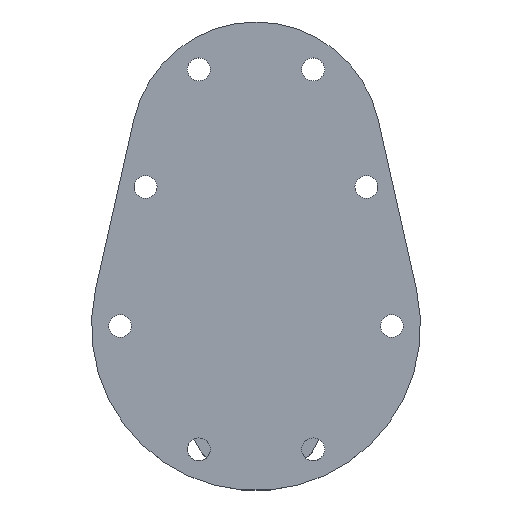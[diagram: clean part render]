
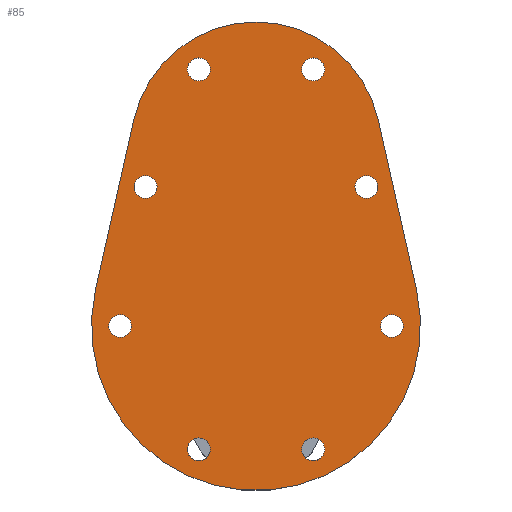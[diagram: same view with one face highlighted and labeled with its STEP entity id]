
A CAD part, top view. The second image highlights one B-rep face of the part: STEP entity #85.
In plain terms, the highlighted planar face has unit normal (0, 0, 1).
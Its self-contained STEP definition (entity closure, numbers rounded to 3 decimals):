
#85 = ADVANCED_FACE( '', ( #197, #198, #199, #200, #201, #202, #203, #204, #205 ), #206, .T. );
#197 = FACE_BOUND( '', #349, .T. );
#198 = FACE_BOUND( '', #350, .T. );
#199 = FACE_BOUND( '', #351, .T. );
#200 = FACE_BOUND( '', #352, .T. );
#201 = FACE_BOUND( '', #353, .T. );
#202 = FACE_BOUND( '', #354, .T. );
#203 = FACE_BOUND( '', #355, .T. );
#204 = FACE_BOUND( '', #356, .T. );
#205 = FACE_OUTER_BOUND( '', #357, .T. );
#206 = PLANE( '', #358 );
#349 = EDGE_LOOP( '', ( #534 ) );
#350 = EDGE_LOOP( '', ( #535 ) );
#351 = EDGE_LOOP( '', ( #536 ) );
#352 = EDGE_LOOP( '', ( #537 ) );
#353 = EDGE_LOOP( '', ( #538 ) );
#354 = EDGE_LOOP( '', ( #539 ) );
#355 = EDGE_LOOP( '', ( #540 ) );
#356 = EDGE_LOOP( '', ( #541 ) );
#357 = EDGE_LOOP( '', ( #542, #543, #544, #545 ) );
#358 = AXIS2_PLACEMENT_3D( '', #546, #547, #548 );
#534 = ORIENTED_EDGE( '', *, *, #818, .F. );
#535 = ORIENTED_EDGE( '', *, *, #835, .F. );
#536 = ORIENTED_EDGE( '', *, *, #836, .F. );
#537 = ORIENTED_EDGE( '', *, *, #800, .F. );
#538 = ORIENTED_EDGE( '', *, *, #794, .F. );
#539 = ORIENTED_EDGE( '', *, *, #837, .F. );
#540 = ORIENTED_EDGE( '', *, *, #838, .F. );
#541 = ORIENTED_EDGE( '', *, *, #797, .F. );
#542 = ORIENTED_EDGE( '', *, *, #839, .T. );
#543 = ORIENTED_EDGE( '', *, *, #840, .T. );
#544 = ORIENTED_EDGE( '', *, *, #841, .T. );
#545 = ORIENTED_EDGE( '', *, *, #802, .T. );
#546 = CARTESIAN_POINT( '', ( 0., 0., 0. ) );
#547 = DIRECTION( '', ( 0., 0., 1. ) );
#548 = DIRECTION( '', ( 1., 0., 0. ) );
#794 = EDGE_CURVE( '', #925, #925, #926, .T. );
#797 = EDGE_CURVE( '', #930, #930, #931, .T. );
#800 = EDGE_CURVE( '', #935, #935, #936, .T. );
#802 = EDGE_CURVE( '', #938, #939, #940, .T. );
#818 = EDGE_CURVE( '', #966, #966, #967, .T. );
#835 = EDGE_CURVE( '', #994, #994, #995, .T. );
#836 = EDGE_CURVE( '', #996, #996, #997, .T. );
#837 = EDGE_CURVE( '', #998, #998, #999, .T. );
#838 = EDGE_CURVE( '', #1000, #1000, #1001, .T. );
#839 = EDGE_CURVE( '', #939, #1002, #1003, .T. );
#840 = EDGE_CURVE( '', #1002, #1004, #1005, .T. );
#841 = EDGE_CURVE( '', #1004, #938, #1006, .T. );
#925 = VERTEX_POINT( '', #1119 );
#926 = CIRCLE( '', #1120, 3.2 );
#930 = VERTEX_POINT( '', #1124 );
#931 = CIRCLE( '', #1125, 3.2 );
#935 = VERTEX_POINT( '', #1129 );
#936 = CIRCLE( '', #1130, 3.2 );
#938 = VERTEX_POINT( '', #1132 );
#939 = VERTEX_POINT( '', #1133 );
#940 = CIRCLE( '', #1134, 35. );
#966 = VERTEX_POINT( '', #1165 );
#967 = CIRCLE( '', #1166, 3.2 );
#994 = VERTEX_POINT( '', #1203 );
#995 = CIRCLE( '', #1204, 3.2 );
#996 = VERTEX_POINT( '', #1205 );
#997 = CIRCLE( '', #1206, 3.2 );
#998 = VERTEX_POINT( '', #1207 );
#999 = CIRCLE( '', #1208, 3.2 );
#1000 = VERTEX_POINT( '', #1209 );
#1001 = CIRCLE( '', #1210, 3.2 );
#1002 = VERTEX_POINT( '', #1211 );
#1003 = LINE( '', #1212, #1213 );
#1004 = VERTEX_POINT( '', #1214 );
#1005 = CIRCLE( '', #1215, 46. );
#1006 = LINE( '', #1216, #1217 );
#1119 = CARTESIAN_POINT( '', ( 19.2, -34.47, 0. ) );
#1120 = AXIS2_PLACEMENT_3D( '', #1363, #1364, #1365 );
#1124 = CARTESIAN_POINT( '', ( 41.2, 0., 0. ) );
#1125 = AXIS2_PLACEMENT_3D( '', #1369, #1370, #1371 );
#1129 = CARTESIAN_POINT( '', ( -12.8, 71.75, 0. ) );
#1130 = AXIS2_PLACEMENT_3D( '', #1375, #1376, #1377 );
#1132 = CARTESIAN_POINT( '', ( 34.142, 57.7, 0. ) );
#1133 = CARTESIAN_POINT( '', ( -34.142, 57.7, 0. ) );
#1134 = AXIS2_PLACEMENT_3D( '', #1378, #1379, #1380 );
#1165 = CARTESIAN_POINT( '', ( -34.8, 0., 0. ) );
#1166 = AXIS2_PLACEMENT_3D( '', #1404, #1405, #1406 );
#1203 = CARTESIAN_POINT( '', ( -27.66, 38.87, 0. ) );
#1204 = AXIS2_PLACEMENT_3D( '', #1423, #1424, #1425 );
#1205 = CARTESIAN_POINT( '', ( -12.8, -34.47, 0. ) );
#1206 = AXIS2_PLACEMENT_3D( '', #1426, #1427, #1428 );
#1207 = CARTESIAN_POINT( '', ( 19.2, 71.75, 0. ) );
#1208 = AXIS2_PLACEMENT_3D( '', #1429, #1430, #1431 );
#1209 = CARTESIAN_POINT( '', ( 34.06, 38.87, 0. ) );
#1210 = AXIS2_PLACEMENT_3D( '', #1432, #1433, #1434 );
#1211 = CARTESIAN_POINT( '', ( -44.873, 10.12, 0. ) );
#1212 = CARTESIAN_POINT( '', ( -34.142, 57.7, 0. ) );
#1213 = VECTOR( '', #1435, 1000. );
#1214 = CARTESIAN_POINT( '', ( 44.873, 10.12, 0. ) );
#1215 = AXIS2_PLACEMENT_3D( '', #1436, #1437, #1438 );
#1216 = CARTESIAN_POINT( '', ( 44.873, 10.12, 0. ) );
#1217 = VECTOR( '', #1439, 1000. );
#1363 = CARTESIAN_POINT( '', ( 16., -34.47, 0. ) );
#1364 = DIRECTION( '', ( 0., 0., 1. ) );
#1365 = DIRECTION( '', ( 1., 0., 0. ) );
#1369 = CARTESIAN_POINT( '', ( 38., 0., 0. ) );
#1370 = DIRECTION( '', ( 0., 0., 1. ) );
#1371 = DIRECTION( '', ( 1., 0., 0. ) );
#1375 = CARTESIAN_POINT( '', ( -16., 71.75, 0. ) );
#1376 = DIRECTION( '', ( 0., 0., 1. ) );
#1377 = DIRECTION( '', ( 1., 0., 0. ) );
#1378 = CARTESIAN_POINT( '', ( 0., 50., 0. ) );
#1379 = DIRECTION( '', ( 0., 0., 1. ) );
#1380 = DIRECTION( '', ( 1., 0., 0. ) );
#1404 = CARTESIAN_POINT( '', ( -38., 0., 0. ) );
#1405 = DIRECTION( '', ( 0., 0., 1. ) );
#1406 = DIRECTION( '', ( 1., 0., 0. ) );
#1423 = CARTESIAN_POINT( '', ( -30.86, 38.87, 0. ) );
#1424 = DIRECTION( '', ( 0., 0., 1. ) );
#1425 = DIRECTION( '', ( 1., 0., 0. ) );
#1426 = CARTESIAN_POINT( '', ( -16., -34.47, 0. ) );
#1427 = DIRECTION( '', ( 0., 0., 1. ) );
#1428 = DIRECTION( '', ( 1., 0., 0. ) );
#1429 = CARTESIAN_POINT( '', ( 16., 71.75, 0. ) );
#1430 = DIRECTION( '', ( 0., 0., 1. ) );
#1431 = DIRECTION( '', ( 1., 0., 0. ) );
#1432 = CARTESIAN_POINT( '', ( 30.86, 38.87, 0. ) );
#1433 = DIRECTION( '', ( 0., 0., 1. ) );
#1434 = DIRECTION( '', ( 1., 0., 0. ) );
#1435 = DIRECTION( '', ( -0.22, -0.975, 0. ) );
#1436 = CARTESIAN_POINT( '', ( 0., 0., 0. ) );
#1437 = DIRECTION( '', ( 0., 0., 1. ) );
#1438 = DIRECTION( '', ( 1., 0., 0. ) );
#1439 = DIRECTION( '', ( -0.22, 0.975, 0. ) );
